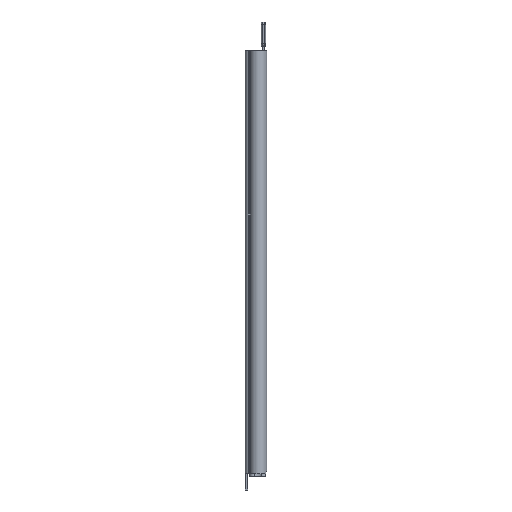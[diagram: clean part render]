
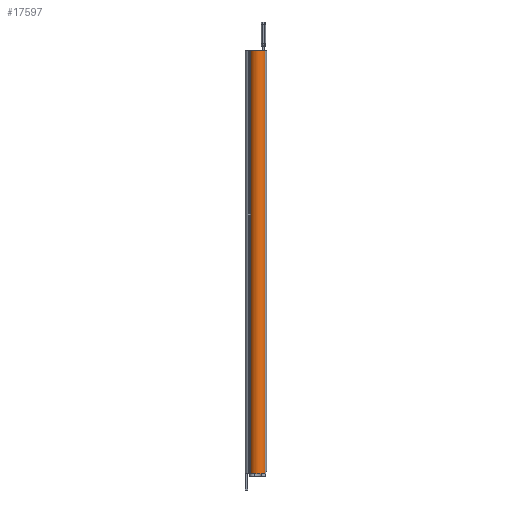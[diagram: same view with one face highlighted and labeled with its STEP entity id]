
A CAD part, front view. The second image highlights one B-rep face of the part: STEP entity #17597.
In plain terms, the highlighted cylindrical face has radius 7.257 mm (diameter 14.514 mm), a partial arc.
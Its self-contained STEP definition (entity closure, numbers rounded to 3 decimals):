
#224 = ORIENTED_EDGE ( 'NONE', *, *, #19193, .T. ) ;
#752 = CIRCLE ( 'NONE', #19052, 7.257 ) ;
#2405 = DIRECTION ( 'NONE',  ( 1., 0., 0. ) ) ;
#2932 = DIRECTION ( 'NONE',  ( 0., 0., 1. ) ) ;
#3063 = ORIENTED_EDGE ( 'NONE', *, *, #5662, .F. ) ;
#3322 = CARTESIAN_POINT ( 'NONE',  ( -4.414, -33.43, -385. ) ) ;
#4578 = EDGE_CURVE ( 'NONE', #9142, #24285, #14001, .T. ) ;
#5131 = CARTESIAN_POINT ( 'NONE',  ( -4.414, -33.43, 0. ) ) ;
#5662 = EDGE_CURVE ( 'NONE', #20028, #9142, #11746, .T. ) ;
#6305 = AXIS2_PLACEMENT_3D ( 'NONE', #21831, #2932, #19778 ) ;
#6784 = EDGE_CURVE ( 'NONE', #20028, #10594, #752, .T. ) ;
#8919 = DIRECTION ( 'NONE',  ( 0., 0., 1. ) ) ;
#9142 = VERTEX_POINT ( 'NONE', #5131 ) ;
#10078 = CYLINDRICAL_SURFACE ( 'NONE', #22968, 7.257 ) ;
#10594 = VERTEX_POINT ( 'NONE', #25818 ) ;
#11143 = CARTESIAN_POINT ( 'NONE',  ( 2.177, -30.393, -400. ) ) ;
#11425 = CARTESIAN_POINT ( 'NONE',  ( -4.414, -33.43, -400. ) ) ;
#11746 = LINE ( 'NONE', #11425, #21279 ) ;
#12400 = DIRECTION ( 'NONE',  ( 0., 0., 1. ) ) ;
#12744 = EDGE_LOOP ( 'NONE', ( #23183, #224, #24238, #3063 ) ) ;
#14001 = CIRCLE ( 'NONE', #6305, 7.257 ) ;
#14776 = CARTESIAN_POINT ( 'NONE',  ( 2.177, -30.393, -385. ) ) ;
#15053 = DIRECTION ( 'NONE',  ( 0., 0., 1. ) ) ;
#17597 = ADVANCED_FACE ( 'NONE', ( #26867 ), #10078, .T. ) ;
#18701 = CARTESIAN_POINT ( 'NONE',  ( 8.55, -33.864, -400. ) ) ;
#19052 = AXIS2_PLACEMENT_3D ( 'NONE', #14776, #15053, #2405 ) ;
#19193 = EDGE_CURVE ( 'NONE', #10594, #24285, #21911, .T. ) ;
#19778 = DIRECTION ( 'NONE',  ( 1., 0., 0. ) ) ;
#20028 = VERTEX_POINT ( 'NONE', #3322 ) ;
#21279 = VECTOR ( 'NONE', #24296, 1000. ) ;
#21831 = CARTESIAN_POINT ( 'NONE',  ( 2.177, -30.393, 0. ) ) ;
#21911 = LINE ( 'NONE', #18701, #23220 ) ;
#22968 = AXIS2_PLACEMENT_3D ( 'NONE', #11143, #8919, #25862 ) ;
#23183 = ORIENTED_EDGE ( 'NONE', *, *, #6784, .T. ) ;
#23220 = VECTOR ( 'NONE', #12400, 1000. ) ;
#23631 = CARTESIAN_POINT ( 'NONE',  ( 8.55, -33.864, 0. ) ) ;
#24238 = ORIENTED_EDGE ( 'NONE', *, *, #4578, .F. ) ;
#24285 = VERTEX_POINT ( 'NONE', #23631 ) ;
#24296 = DIRECTION ( 'NONE',  ( 0., 0., 1. ) ) ;
#25818 = CARTESIAN_POINT ( 'NONE',  ( 8.55, -33.864, -385. ) ) ;
#25862 = DIRECTION ( 'NONE',  ( 1., 0., 0. ) ) ;
#26867 = FACE_OUTER_BOUND ( 'NONE', #12744, .T. ) ;
